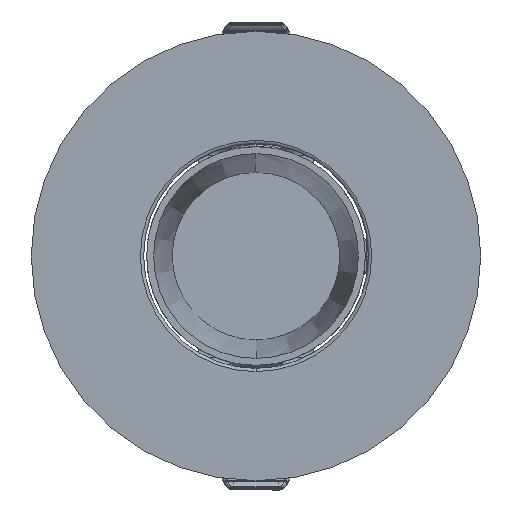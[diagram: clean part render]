
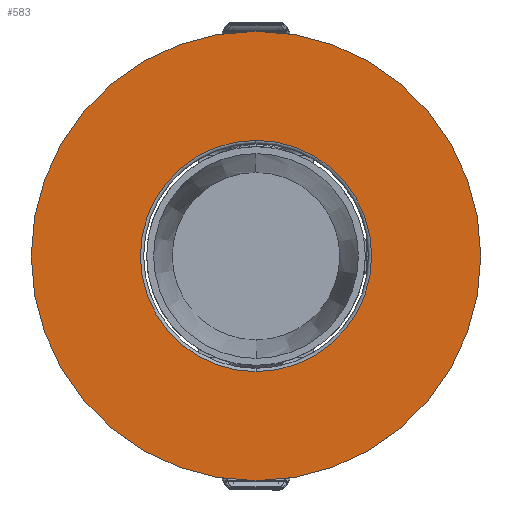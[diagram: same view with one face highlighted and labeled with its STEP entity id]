
A CAD part, top view. The second image highlights one B-rep face of the part: STEP entity #583.
In plain terms, the highlighted planar face has unit normal (0, 0, 1).
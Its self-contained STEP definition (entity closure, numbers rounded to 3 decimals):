
#216=CARTESIAN_POINT('',(0.,0.,0.));
#217=DIRECTION('',(0.,0.,-1.));
#218=DIRECTION('',(0.,1.,0.));
#219=AXIS2_PLACEMENT_3D('',#216,#217,#218);
#224=CARTESIAN_POINT('',(0.,0.,0.));
#225=DIRECTION('',(0.,0.,-1.));
#226=DIRECTION('',(0.,-1.,0.));
#227=AXIS2_PLACEMENT_3D('',#224,#225,#226);
#232=CARTESIAN_POINT('',(0.,0.,0.));
#233=DIRECTION('',(0.,0.,1.));
#234=DIRECTION('',(-0.007,1.,0.));
#235=AXIS2_PLACEMENT_3D('',#232,#233,#234);
#240=CARTESIAN_POINT('',(0.,0.,0.));
#241=DIRECTION('',(0.,0.,1.));
#242=DIRECTION('',(0.007,-1.,0.));
#243=AXIS2_PLACEMENT_3D('',#240,#241,#242);
#248=CARTESIAN_POINT('',(0.,0.,0.));
#249=DIRECTION('',(0.,0.,-1.));
#250=DIRECTION('',(-0.007,1.,0.));
#251=AXIS2_PLACEMENT_3D('',#248,#249,#250);
#280=CARTESIAN_POINT('',(0.,0.,0.));
#281=DIRECTION('',(0.,0.,-1.));
#282=DIRECTION('',(0.007,-1.,0.));
#283=AXIS2_PLACEMENT_3D('',#280,#281,#282);
#474=CARTESIAN_POINT('',(0.,-55.,0.));
#475=VERTEX_POINT('',#474);
#476=CARTESIAN_POINT('',(0.,55.,0.));
#477=VERTEX_POINT('',#476);
#478=CARTESIAN_POINT('',(-0.19,28.299,0.));
#479=CARTESIAN_POINT('',(0.,28.3,0.));
#480=VERTEX_POINT('',#478);
#481=VERTEX_POINT('',#479);
#482=CARTESIAN_POINT('',(0.,-28.3,0.));
#483=VERTEX_POINT('',#482);
#484=CARTESIAN_POINT('',(0.19,-28.299,0.));
#485=VERTEX_POINT('',#484);
#564=CARTESIAN_POINT('',(0.,0.,0.));
#565=DIRECTION('',(0.,0.,-1.));
#566=DIRECTION('',(0.,-1.,0.));
#567=AXIS2_PLACEMENT_3D('',#564,#565,#566);
#568=PLANE('',#567);
#569=ORIENTED_EDGE('',*,*,#557,.T.);
#570=ORIENTED_EDGE('',*,*,#546,.T.);
#571=EDGE_LOOP('',(#569,#570));
#572=FACE_OUTER_BOUND('',#571,.F.);
#574=ORIENTED_EDGE('',*,*,#573,.F.);
#576=ORIENTED_EDGE('',*,*,#575,.T.);
#578=ORIENTED_EDGE('',*,*,#577,.F.);
#580=ORIENTED_EDGE('',*,*,#579,.T.);
#581=EDGE_LOOP('',(#574,#576,#578,#580));
#582=FACE_BOUND('',#581,.F.);
#583=ADVANCED_FACE('',(#572,#582),#568,.F.);
#220=CIRCLE('',#219,55.);
#228=CIRCLE('',#227,55.);
#236=CIRCLE('',#235,28.3);
#244=CIRCLE('',#243,28.3);
#252=CIRCLE('',#251,28.3);
#284=CIRCLE('',#283,28.3);
#546=EDGE_CURVE('',#475,#477,#228,.T.);
#557=EDGE_CURVE('',#477,#475,#220,.T.);
#573=EDGE_CURVE('',#480,#481,#252,.T.);
#575=EDGE_CURVE('',#480,#483,#236,.T.);
#577=EDGE_CURVE('',#485,#483,#284,.T.);
#579=EDGE_CURVE('',#485,#481,#244,.T.);
